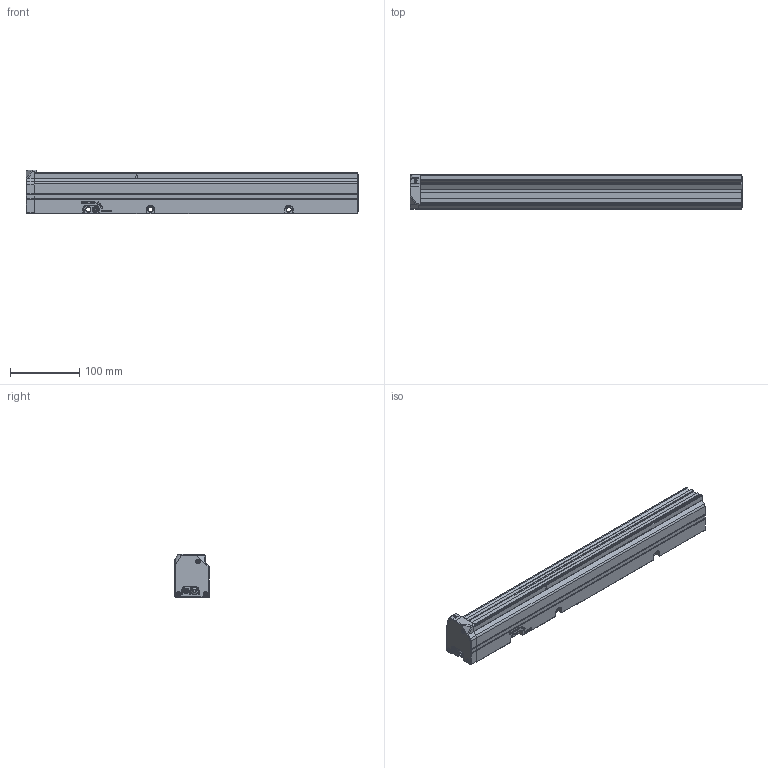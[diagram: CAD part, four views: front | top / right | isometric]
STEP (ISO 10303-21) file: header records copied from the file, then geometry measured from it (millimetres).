
FILE_DESCRIPTION(('Creo Elements/Direct Modeling STEP Export'),'2;1');
FILE_NAME('MOD_L3_R.stp','2020-04-10T19:45:06',(''),(''),'PTC Creo Elements/Direct Modeling STEP processor for AP214 (Solid Model)','PTC Creo Elements/Direct Modeling 19.0E 27-Jun-2016 (C) Parametric Technology GmbH','');
FILE_SCHEMA(('AUTOMOTIVE_DESIGN { 1 0 10303 214 1 1 1 1 }'));
Length unit declared in the file: millimetre
Products named in the file (3): MOD_L3_R; MOD_L3_R.stp
Assembly tree (2 placements, depth 3):
  MOD_L3_R.stp
    MOD_L3_R
      MOD_L3_R
Bounding box: 480 x 50 x 62.7 mm (x, y, z)
Volume: 1245149.6 mm3; surface area: 129022.3 mm2
Topology: 1 solids, 1 shells, 525 faces, 1708 edges, 1231 vertices
Faces by surface type: plane 297, cylinder 160, cone 49, torus 15, bspline 4
Entity records: 24193 total; most frequent: CARTESIAN_POINT 5894, ORIENTED_EDGE 3416, DIRECTION 2905, EDGE_CURVE 1708, VERTEX_POINT 1231, VECTOR 1185, LINE 1185, AXIS2_PLACEMENT_3D 860
